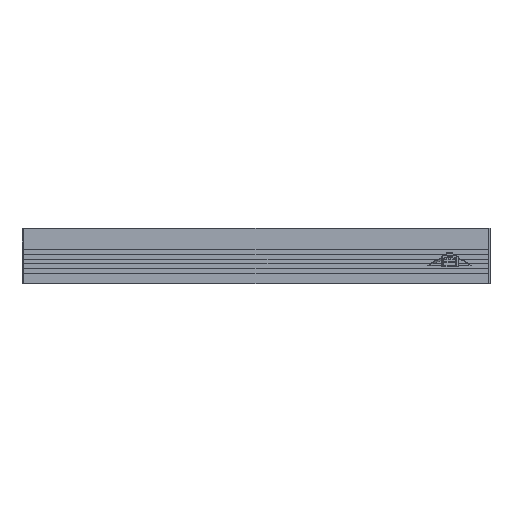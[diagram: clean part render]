
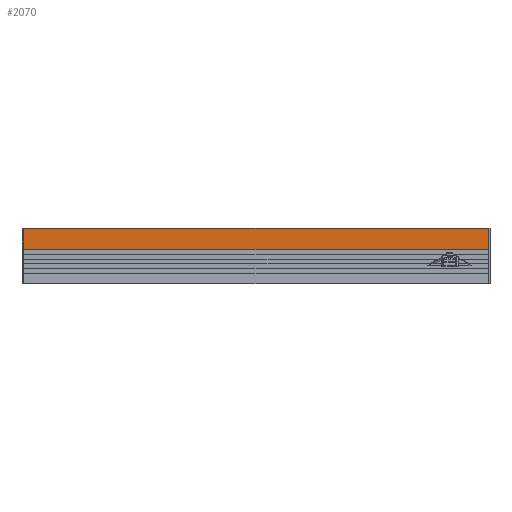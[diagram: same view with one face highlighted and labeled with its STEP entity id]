
A CAD part, front view. The second image highlights one B-rep face of the part: STEP entity #2070.
In plain terms, the highlighted planar face has unit normal (0, -1, 0) as drawn and (0, 0, 1) by its records, which use the part's own axes.
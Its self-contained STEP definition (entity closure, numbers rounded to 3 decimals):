
#2070=ADVANCED_FACE('',(#4113),#4114,.T.);
#4113=FACE_OUTER_BOUND('',#6557,.T.);
#4114=PLANE('',#6558);
#6557=EDGE_LOOP('',(#11848,#11849,#11850,#11851));
#6558=AXIS2_PLACEMENT_3D('',#11852,#11853,#11854);
#11848=ORIENTED_EDGE('',*,*,#15775,.F.);
#11849=ORIENTED_EDGE('',*,*,#15935,.T.);
#11850=ORIENTED_EDGE('',*,*,#15639,.T.);
#11851=ORIENTED_EDGE('',*,*,#15937,.F.);
#11852=CARTESIAN_POINT('',(302.0,14.0,27.5));
#11853=DIRECTION('',(0.0,0.0,1.0));
#11854=DIRECTION('',(1.0,0.0,0.0));
#15639=EDGE_CURVE('',#19332,#19330,#19333,.T.);
#15775=EDGE_CURVE('',#19595,#19597,#19598,.T.);
#15935=EDGE_CURVE('',#19595,#19332,#19775,.T.);
#15937=EDGE_CURVE('',#19597,#19330,#19777,.T.);
#19330=VERTEX_POINT('',#26562);
#19332=VERTEX_POINT('',#26565);
#19333=LINE('',#26566,#26567);
#19595=VERTEX_POINT('',#26952);
#19597=VERTEX_POINT('',#26955);
#19598=LINE('',#26956,#26957);
#19775=LINE('',#27216,#27217);
#19777=LINE('',#27219,#27220);
#26562=CARTESIAN_POINT('',(1.0,0.0,27.5));
#26565=CARTESIAN_POINT('',(1.0,14.0,27.5));
#26566=CARTESIAN_POINT('',(1.0,14.0,27.5));
#26567=VECTOR('',#30025,14.0);
#26952=CARTESIAN_POINT('',(301.0,14.0,27.5));
#26955=CARTESIAN_POINT('',(301.0,0.0,27.5));
#26956=CARTESIAN_POINT('',(301.0,14.0,27.5));
#26957=VECTOR('',#30180,14.0);
#27216=CARTESIAN_POINT('',(301.0,14.0,27.5));
#27217=VECTOR('',#30308,300.0);
#27219=CARTESIAN_POINT('',(301.0,0.0,27.5));
#27220=VECTOR('',#30309,300.0);
#30025=DIRECTION('',(0.0,-1.0,0.0));
#30180=DIRECTION('',(0.0,-1.0,0.0));
#30308=DIRECTION('',(-1.0,0.,0.));
#30309=DIRECTION('',(-1.0,0.0,0.));
